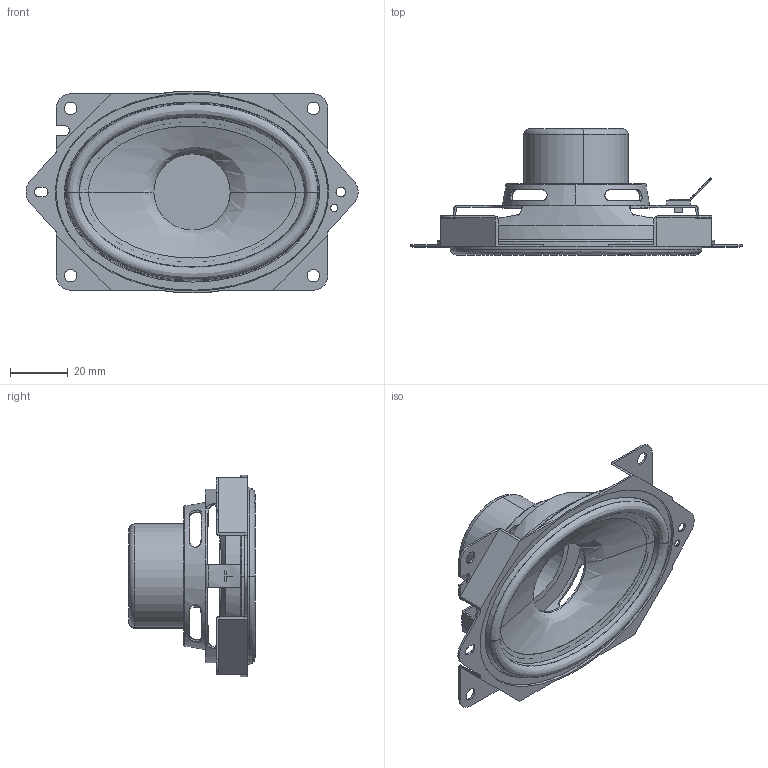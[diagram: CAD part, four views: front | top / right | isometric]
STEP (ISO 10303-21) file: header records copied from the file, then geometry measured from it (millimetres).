
FILE_DESCRIPTION (( 'STEP AP214' ), '1' );
FILE_NAME ('7096_Woofer_210303.STEP', '2021-03-03T01:18:35', ( '' ), ( '' ), 'SwSTEP 2.0', 'SolidWorks 2019', '' );
FILE_SCHEMA (( 'AUTOMOTIVE_DESIGN' ));
Length unit declared in the file: millimetre
Products named in the file (5): 96x70_Frame_210302; Terminal; 96x70_Yoke_210302; 7096_Woofer_210303; 96x70_Cone Paper_210224
Assembly tree (4 placements, depth 2):
  7096_Woofer_210303
    96x70_Frame_210302
    96x70_Yoke_210302
    96x70_Cone Paper_210224
    Terminal
Bounding box: 114.96 x 43.7 x 69.9 mm (x, y, z)
Volume: 18608.3 mm3; surface area: 38743.8 mm2
Topology: 5 solids, 5 shells, 279 faces, 740 edges, 473 vertices
Faces by surface type: plane 126, cylinder 91, bspline 52, torus 6, cone 4
Entity records: 41184 total; most frequent: CARTESIAN_POINT 34472, ORIENTED_EDGE 1480, DIRECTION 1135, EDGE_CURVE 740, VERTEX_POINT 473, LINE 383, VECTOR 383, AXIS2_PLACEMENT_3D 376
